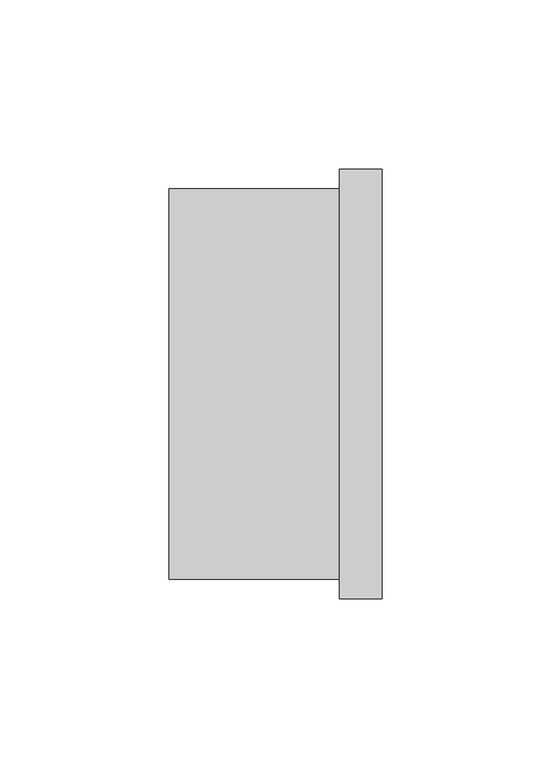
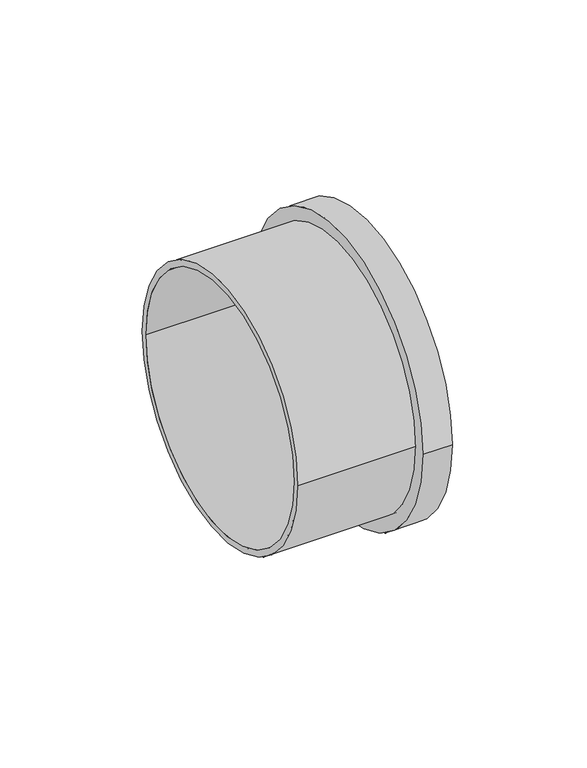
"""IFC4 building model written with IfcOpenShell, lengths in millimetres: pipe fitting geometry, Superdrain HT pipe socket : Superdrain HT pipe socket."""

from ifc_helpers import new_model, si_unit, point, frame, origin, origin_2d, place, context, project, spatial, circle_curve, trimmed, segment, composite_curve, outline, extrude, source, transform, mapped, element, save


def pipe_fitting_032b0b43(model_context):
    return source(origin(), model_context, "Body", "SweptSolid", [
        extrude(outline(composite_curve([segment(trimmed(circle_curve(origin_2d(), 57.75), [point((57.75, 0.0))], [point((-57.75, 0.0))], False, "CARTESIAN"), True, "CONTINUOUS"), segment(trimmed(circle_curve(origin_2d(), 57.75), [point((-57.75, 0.0))], [point((57.75, 0.0))], False, "CARTESIAN"), True, "CONTINUOUS")], self_intersect=False), holes=[composite_curve([segment(trimmed(circle_curve(origin_2d(), 55.0), [point((55.0, 0.0))], [point((-55.0, 0.0))], True, "CARTESIAN"), True, "CONTINUOUS"), segment(trimmed(circle_curve(origin_2d(), 55.0), [point((-55.0, 0.0))], [point((55.0, 0.0))], True, "CARTESIAN"), True, "CONTINUOUS")], self_intersect=False)]), frame((0.0, 0.0, 0.0), z_axis=(1.0, 0.0, 0.0), x_axis=(0.0, 1.0, 0.0)), (0.0, 0.0, 1.0), 63.0),
        extrude(outline(composite_curve([segment(trimmed(circle_curve(origin_2d(), 63.525), [point((63.525, 0.0))], [point((-63.525, 0.0))], False, "CARTESIAN"), True, "CONTINUOUS"), segment(trimmed(circle_curve(origin_2d(), 63.525), [point((-63.525, 0.0))], [point((63.525, 0.0))], False, "CARTESIAN"), True, "CONTINUOUS")], self_intersect=False), holes=[composite_curve([segment(trimmed(circle_curve(origin_2d(), 55.0), [point((55.0, 0.0))], [point((-55.0, 0.0))], True, "CARTESIAN"), True, "CONTINUOUS"), segment(trimmed(circle_curve(origin_2d(), 55.0), [point((-55.0, 0.0))], [point((55.0, 0.0))], True, "CARTESIAN"), True, "CONTINUOUS")], self_intersect=False)]), frame((50.4, 0.0, 0.0), z_axis=(1.0, 0.0, 0.0), x_axis=(0.0, 1.0, 0.0)), (0.0, 0.0, 1.0), 12.6),
    ])


if __name__ == "__main__":
    model = new_model("IFC4")
    model_context = context("Model", 3, world=origin())
    ifc_project = project(units=[si_unit("LENGTHUNIT", "METRE", prefix="MILLI")], contexts=[model_context])
    site = spatial("IfcSite", under=ifc_project)
    building = spatial("IfcBuilding", under=site)
    placement = place(None, origin())
    pipe_fitting_shape = pipe_fitting_032b0b43(model_context)
    element("IfcPipeFitting", 1, ObjectType="Superdrain HT pipe socket : Superdrain HT pipe socket", at=placement, inside=building, context=model_context, shape_type="MappedRepresentation", body=[
        mapped(pipe_fitting_shape, transform((0.0, 0.0, 0.0), x_axis=(1.0, 0.0, 0.0), y_axis=(0.0, 1.0, 0.0), z_axis=(0.0, 0.0, 1.0))),
    ])
    save(model, "model.ifc")
